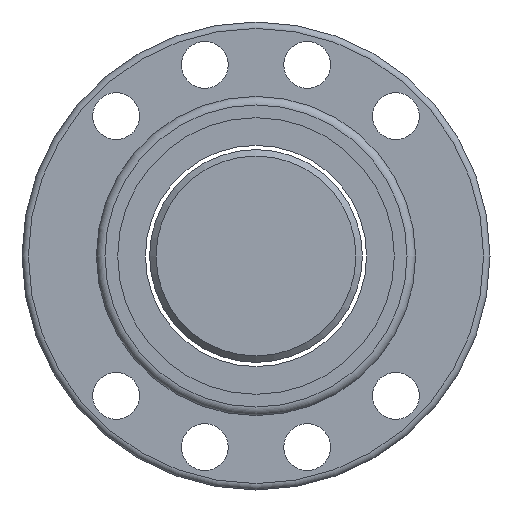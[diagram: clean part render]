
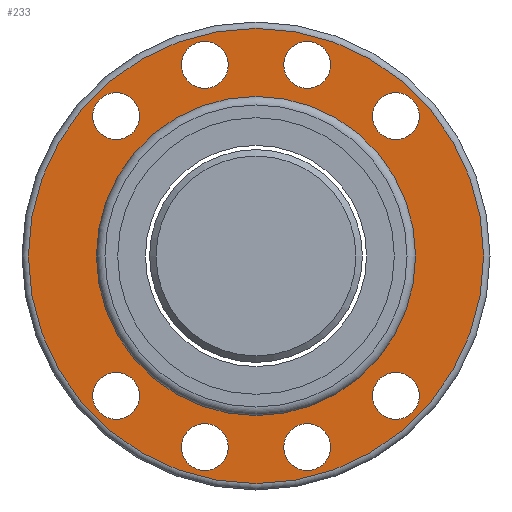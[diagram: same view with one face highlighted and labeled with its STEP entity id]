
A CAD part, left-side view. The second image highlights one B-rep face of the part: STEP entity #233.
In plain terms, the highlighted planar face has unit normal (-1, 0, 0).
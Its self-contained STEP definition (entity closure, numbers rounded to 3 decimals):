
#144=FACE_BOUND('',#315,.T.);
#145=FACE_BOUND('',#316,.T.);
#146=FACE_BOUND('',#317,.T.);
#147=FACE_BOUND('',#318,.T.);
#148=FACE_BOUND('',#319,.T.);
#149=FACE_BOUND('',#320,.T.);
#150=FACE_BOUND('',#321,.T.);
#151=FACE_BOUND('',#322,.T.);
#152=FACE_BOUND('',#324,.T.);
#233=ADVANCED_FACE('',(#144,#145,#146,#147,#148,#149,#150,#151,#292,#152),
#275,.T.);
#275=PLANE('',#698);
#292=FACE_OUTER_BOUND('',#323,.T.);
#315=EDGE_LOOP('',(#421));
#316=EDGE_LOOP('',(#422));
#317=EDGE_LOOP('',(#423));
#318=EDGE_LOOP('',(#424));
#319=EDGE_LOOP('',(#425));
#320=EDGE_LOOP('',(#426));
#321=EDGE_LOOP('',(#427));
#322=EDGE_LOOP('',(#428));
#323=EDGE_LOOP('',(#429));
#324=EDGE_LOOP('',(#430));
#421=ORIENTED_EDGE('',*,*,#576,.F.);
#422=ORIENTED_EDGE('',*,*,#577,.F.);
#423=ORIENTED_EDGE('',*,*,#578,.F.);
#424=ORIENTED_EDGE('',*,*,#579,.F.);
#425=ORIENTED_EDGE('',*,*,#580,.F.);
#426=ORIENTED_EDGE('',*,*,#581,.F.);
#427=ORIENTED_EDGE('',*,*,#582,.F.);
#428=ORIENTED_EDGE('',*,*,#583,.F.);
#429=ORIENTED_EDGE('',*,*,#584,.T.);
#430=ORIENTED_EDGE('',*,*,#574,.F.);
#521=VERTEX_POINT('',#991);
#523=VERTEX_POINT('',#996);
#524=VERTEX_POINT('',#998);
#525=VERTEX_POINT('',#1000);
#526=VERTEX_POINT('',#1002);
#527=VERTEX_POINT('',#1004);
#528=VERTEX_POINT('',#1006);
#529=VERTEX_POINT('',#1008);
#530=VERTEX_POINT('',#1010);
#531=VERTEX_POINT('',#1012);
#574=EDGE_CURVE('',#521,#521,#627,.T.);
#576=EDGE_CURVE('',#523,#523,#629,.T.);
#577=EDGE_CURVE('',#524,#524,#630,.T.);
#578=EDGE_CURVE('',#525,#525,#631,.T.);
#579=EDGE_CURVE('',#526,#526,#632,.T.);
#580=EDGE_CURVE('',#527,#527,#633,.T.);
#581=EDGE_CURVE('',#528,#528,#634,.T.);
#582=EDGE_CURVE('',#529,#529,#635,.T.);
#583=EDGE_CURVE('',#530,#530,#636,.T.);
#584=EDGE_CURVE('',#531,#531,#637,.T.);
#627=CIRCLE('',#686,37.5);
#629=CIRCLE('',#689,5.5);
#630=CIRCLE('',#690,5.5);
#631=CIRCLE('',#691,5.5);
#632=CIRCLE('',#692,5.5);
#633=CIRCLE('',#693,5.5);
#634=CIRCLE('',#694,5.5);
#635=CIRCLE('',#695,5.5);
#636=CIRCLE('',#696,5.5);
#637=CIRCLE('',#697,53.5);
#686=AXIS2_PLACEMENT_3D('',#990,#796,#797);
#689=AXIS2_PLACEMENT_3D('',#995,#802,#803);
#690=AXIS2_PLACEMENT_3D('',#997,#804,#805);
#691=AXIS2_PLACEMENT_3D('',#999,#806,#807);
#692=AXIS2_PLACEMENT_3D('',#1001,#808,#809);
#693=AXIS2_PLACEMENT_3D('',#1003,#810,#811);
#694=AXIS2_PLACEMENT_3D('',#1005,#812,#813);
#695=AXIS2_PLACEMENT_3D('',#1007,#814,#815);
#696=AXIS2_PLACEMENT_3D('',#1009,#816,#817);
#697=AXIS2_PLACEMENT_3D('',#1011,#818,#819);
#698=AXIS2_PLACEMENT_3D('',#1013,#820,#821);
#796=DIRECTION('',(-1.,0.,0.));
#797=DIRECTION('',(0.,-1.,0.));
#802=DIRECTION('',(-1.,0.,0.));
#803=DIRECTION('',(0.,-1.,0.));
#804=DIRECTION('',(-1.,0.,0.));
#805=DIRECTION('',(0.,-1.,0.));
#806=DIRECTION('',(-1.,0.,0.));
#807=DIRECTION('',(0.,-1.,0.));
#808=DIRECTION('',(-1.,0.,0.));
#809=DIRECTION('',(0.,-1.,0.));
#810=DIRECTION('',(-1.,0.,0.));
#811=DIRECTION('',(0.,-1.,0.));
#812=DIRECTION('',(-1.,0.,0.));
#813=DIRECTION('',(0.,-1.,0.));
#814=DIRECTION('',(-1.,0.,0.));
#815=DIRECTION('',(0.,-1.,0.));
#816=DIRECTION('',(-1.,0.,0.));
#817=DIRECTION('',(0.,-1.,0.));
#818=DIRECTION('',(-1.,0.,0.));
#819=DIRECTION('',(0.,-1.,0.));
#820=DIRECTION('',(-1.,0.,0.));
#821=DIRECTION('',(0.,-1.,0.));
#990=CARTESIAN_POINT('',(-36.,0.,0.));
#991=CARTESIAN_POINT('',(-36.,-37.5,0.));
#995=CARTESIAN_POINT('',(-36.,32.88,-32.88));
#996=CARTESIAN_POINT('',(-36.,27.38,-32.88));
#997=CARTESIAN_POINT('',(-36.,12.035,-44.915));
#998=CARTESIAN_POINT('',(-36.,6.535,-44.915));
#999=CARTESIAN_POINT('',(-36.,-12.035,-44.915));
#1000=CARTESIAN_POINT('',(-36.,-17.535,-44.915));
#1001=CARTESIAN_POINT('',(-36.,-32.88,-32.88));
#1002=CARTESIAN_POINT('',(-36.,-38.38,-32.88));
#1003=CARTESIAN_POINT('',(-36.,-32.88,32.88));
#1004=CARTESIAN_POINT('',(-36.,-38.38,32.88));
#1005=CARTESIAN_POINT('',(-36.,-12.035,44.915));
#1006=CARTESIAN_POINT('',(-36.,-17.535,44.915));
#1007=CARTESIAN_POINT('',(-36.,12.035,44.915));
#1008=CARTESIAN_POINT('',(-36.,6.535,44.915));
#1009=CARTESIAN_POINT('',(-36.,32.88,32.88));
#1010=CARTESIAN_POINT('',(-36.,27.38,32.88));
#1011=CARTESIAN_POINT('',(-36.,0.,0.));
#1012=CARTESIAN_POINT('',(-36.,-53.5,0.));
#1013=CARTESIAN_POINT('',(-36.,45.5,0.));
